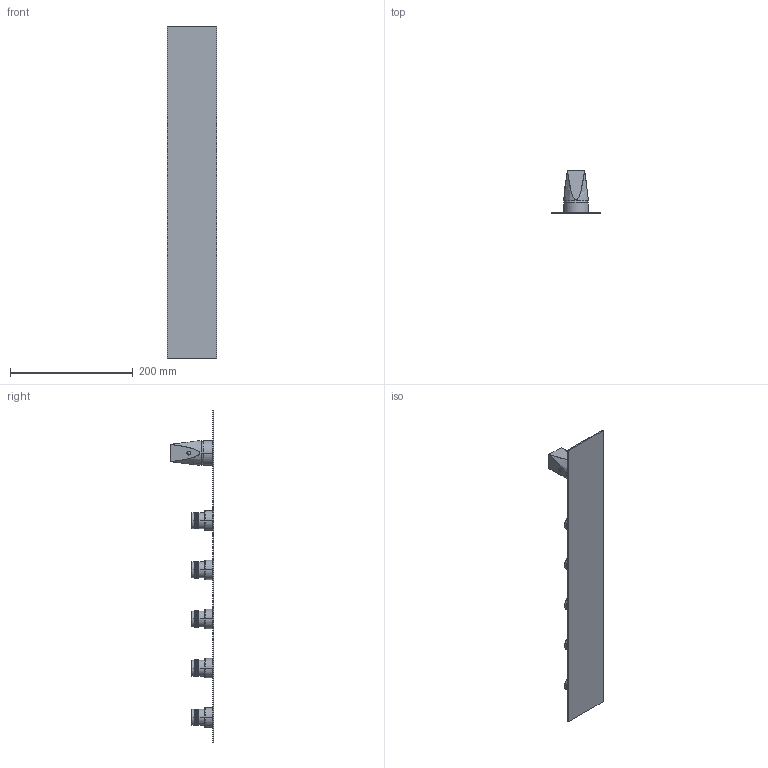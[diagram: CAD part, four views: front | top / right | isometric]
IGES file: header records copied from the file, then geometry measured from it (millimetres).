
Start section:  PTC IGES file: 49000V5.igs
Global section: file name: 49000V5.igs; native system: Creo Parametric by PTC Inc.; preprocessor: 2022014; author: carloff; organization: Unknown; date: 20230921.103239; units: millimetre
Bounding box: 80 x 70.7 x 540 mm (x, y, z)
Surface area: 113690 mm2 (no closed solid volume)
Topology: 0 solids, 0 shells, 8223 faces, 40978 edges, 40966 vertices
Faces by surface type: bspline 6434, revolution 1789
